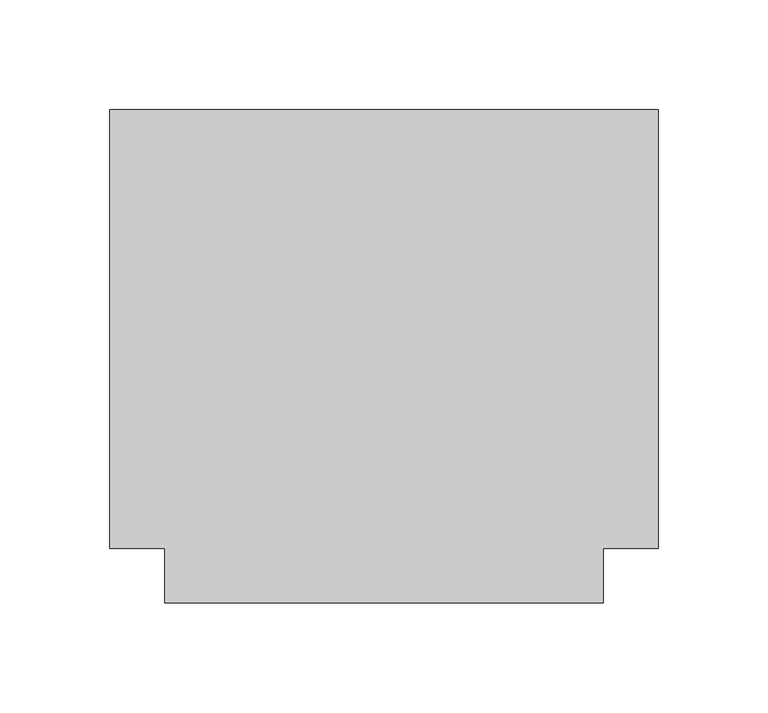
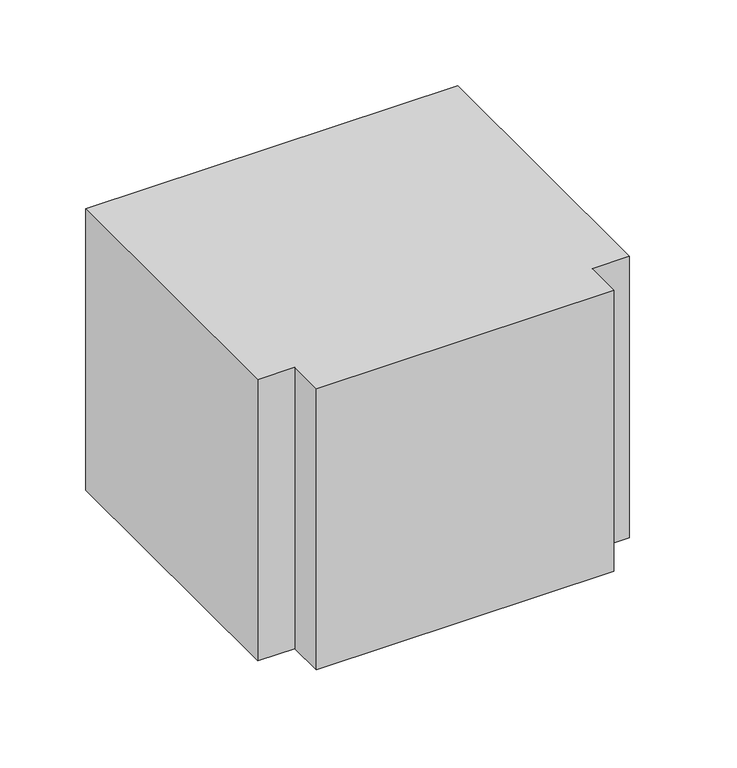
"""IFC4 building model written with IfcOpenShell, lengths in millimetres: duct fitting geometry, M_Te rectangular : Estándar."""

import ifcopenshell
import ifcopenshell.guid

model = None  # the IFC model being written
_history = None  # IfcOwnerHistory: only IFC2X3 demands one
_inside = {}  # id of a spatial element -> (the spatial element, [elements in it])
_under = {}  # id of a project, library or spatial element -> (it, [spatial elements below it])
_declared = {}  # id of a project -> (the project, [libraries it declares])
_typed = {}  # id of a type object -> (the type object, [elements of that type])
_made_of = {}  # id of a material, layer set ... -> (it, [elements and type objects made of it])


def new_model(schema):
    """Start an empty IFC model of exactly this schema.

    Asked for "IFC4X3", IfcOpenShell would pick the latest addendum, in which some entities
    have other attributes; the version numbers below select the first issue.
    IFC2X3 requires an IfcOwnerHistory on every rooted entity: one is made here for all.
    """
    global model, _history
    if schema == "IFC4X3":
        model = ifcopenshell.file(schema_version=(4, 3, 0, 0))
    else:
        model = ifcopenshell.file(schema=schema)
    _inside.clear()
    _under.clear()
    _declared.clear()
    _typed.clear()
    _made_of.clear()
    _history = None
    if model.schema == "IFC2X3":
        org = make("IfcOrganization", Name="unknown")
        user = make(
            "IfcPersonAndOrganization",
            ThePerson=make("IfcPerson", FamilyName="unknown"),
            TheOrganization=org,
        )
        app = make(
            "IfcApplication",
            ApplicationDeveloper=org,
            Version="unknown",
            ApplicationFullName="unknown",
            ApplicationIdentifier="unknown",
        )
        _history = make(
            "IfcOwnerHistory",
            OwningUser=user,
            OwningApplication=app,
            ChangeAction="ADDED",
            CreationDate=0,
        )
    return model


def make(cls, **values):
    """One entity of the class cls with the attributes given. An attribute that is None is left unset."""
    return model.create_entity(
        cls, **{name: value for name, value in values.items() if value is not None}
    )


def rooted(cls, **values):
    """An entity with a GlobalId (a new one), such as an element, a storey or a relation."""
    return make(cls, GlobalId=ifcopenshell.guid.new(), OwnerHistory=_history, **values)


def si_unit(unit_type, name, prefix=None):
    """IfcSIUnit, for example si_unit("LENGTHUNIT", "METRE", prefix="MILLI")."""
    return make("IfcSIUnit", UnitType=unit_type, Prefix=prefix, Name=name)


def assignment(units):
    """IfcUnitAssignment: the units of a project."""
    return None if units is None else make("IfcUnitAssignment", Units=units)


def point(xyz):
    """IfcCartesianPoint."""
    return None if xyz is None else make("IfcCartesianPoint", Coordinates=xyz)


def direction(xyz):
    """IfcDirection."""
    return None if xyz is None else make("IfcDirection", DirectionRatios=xyz)


def frame(location, z_axis=None, x_axis=None):
    """IfcAxis2Placement3D, a coordinate frame: its origin and axes. An axis left out is left unset."""
    return make(
        "IfcAxis2Placement3D",
        Location=point(location),
        Axis=direction(z_axis),
        RefDirection=direction(x_axis),
    )


def origin():
    """The frame at (0, 0, 0) with its axes left unset."""
    return frame((0.0, 0.0, 0.0))


def place(relative_to, where):
    """IfcLocalPlacement: puts the frame where relative to a parent placement (None: the world)."""
    return make(
        "IfcLocalPlacement", PlacementRelTo=relative_to, RelativePlacement=where
    )


def context(
    kind, dimensions, precision=None, world=None, true_north=None, identifier=None
):
    """IfcGeometricRepresentationContext, for example the 3D "Model" context."""
    return make(
        "IfcGeometricRepresentationContext",
        ContextIdentifier=identifier,
        ContextType=kind,
        CoordinateSpaceDimension=dimensions,
        Precision=precision,
        WorldCoordinateSystem=world,
        TrueNorth=true_north,
    )


def project(units=None, contexts=None):
    """IfcProject with its units and contexts."""
    return rooted(
        "IfcProject",
        Name="project",
        RepresentationContexts=contexts,
        UnitsInContext=assignment(units),
    )


def spatial(cls, under=None, at=None, **own):
    """A site, building, storey or space (cls), placed at a placement, below another one or the project."""
    s = rooted(cls, ObjectPlacement=at, **own)
    if under is not None:
        _under.setdefault(under.id(), (under, []))[1].append(s)
    return s


def polyline(points):
    """IfcPolyline through the points."""
    return make("IfcPolyline", Points=[point(p) for p in points])


def outline(outer, holes=None, kind="AREA"):
    """IfcArbitraryClosedProfileDef: a profile drawn as a closed curve; with holes, ...WithVoids."""
    if holes is None:
        return make("IfcArbitraryClosedProfileDef", ProfileType=kind, OuterCurve=outer)
    return make(
        "IfcArbitraryProfileDefWithVoids",
        ProfileType=kind,
        OuterCurve=outer,
        InnerCurves=holes,
    )


def extrude(swept, where, along, depth):
    """IfcExtrudedAreaSolid: the profile swept, set in the frame where, extruded along a direction by depth."""
    return make(
        "IfcExtrudedAreaSolid",
        SweptArea=swept,
        Position=where,
        ExtrudedDirection=direction(along),
        Depth=depth,
    )


def shape(context_of_items, identifier, shape_type, items):
    """IfcShapeRepresentation: the items that make up one representation, for example the "Body"."""
    return make(
        "IfcShapeRepresentation",
        ContextOfItems=context_of_items,
        RepresentationIdentifier=identifier,
        RepresentationType=shape_type,
        Items=items,
    )


def source(mapping_origin, context_of_items, identifier, shape_type, items):
    """IfcRepresentationMap: a shape defined once, which mapped items show again and again."""
    return make(
        "IfcRepresentationMap",
        MappingOrigin=mapping_origin,
        MappedRepresentation=shape(context_of_items, identifier, shape_type, items),
    )


def transform(
    local_origin,
    x_axis=None,
    y_axis=None,
    z_axis=None,
    scale=None,
    scale2=None,
    scale3=None,
    uniform=True,
):
    """IfcCartesianTransformationOperator3D, or its non-uniform kind. x_axis, y_axis, z_axis: its Axis1, 2, 3."""
    if uniform:
        return make(
            "IfcCartesianTransformationOperator3D",
            Axis1=direction(x_axis),
            Axis2=direction(y_axis),
            LocalOrigin=point(local_origin),
            Scale=scale,
            Axis3=direction(z_axis),
        )
    return make(
        "IfcCartesianTransformationOperator3DnonUniform",
        Axis1=direction(x_axis),
        Axis2=direction(y_axis),
        LocalOrigin=point(local_origin),
        Scale=scale,
        Axis3=direction(z_axis),
        Scale2=scale2,
        Scale3=scale3,
    )


def mapped(mapping_source, mapping_target):
    """IfcMappedItem: shows the shape of a source again, moved by a transform."""
    return make(
        "IfcMappedItem", MappingSource=mapping_source, MappingTarget=mapping_target
    )


def made_of(thing, what):
    """Note that an element or type object is made of a material, layer set ...; save() writes the relation."""
    if what is not None:
        _made_of.setdefault(what.id(), (what, []))[1].append(thing)
    return thing


def element(
    cls,
    number,
    at=None,
    inside=None,
    cuts=None,
    type_object=None,
    material=None,
    context=None,
    identifier="Body",
    shape_type=None,
    held_by="IfcProductDefinitionShape",
    body=None,
    shapes=None,
    **own,
):
    """One element of the class cls, such as IfcWall. Its Tag is "e" and its number.

    at: its placement. inside: the storey or other place that contains it. cuts: it is an
    opening in that element (IfcRelVoidsElement). A single representation is given by context,
    identifier, shape_type and body (its items); several are given by shapes. held_by: the class
    of the entity that holds the representations. save() writes the other relations.
    """
    e = rooted(cls, Tag="e%d" % number, ObjectPlacement=at, **own)
    if body is not None:
        shapes = [shape(context, identifier, shape_type, body)]
    if shapes is not None:
        e.Representation = make(held_by, Representations=shapes)
    if inside is not None:
        _inside.setdefault(inside.id(), (inside, []))[1].append(e)
    if cuts is not None:
        rooted(
            "IfcRelVoidsElement", RelatingBuildingElement=cuts, RelatedOpeningElement=e
        )
    if type_object is not None:
        _typed.setdefault(type_object.id(), (type_object, []))[1].append(e)
    return made_of(e, material)


def aggregate(whole, parts):
    """IfcRelAggregates: a whole, such as a stair, and the parts it consists of."""
    return rooted("IfcRelAggregates", RelatingObject=whole, RelatedObjects=parts)


def save(model, path):
    """Write the relations noted so far, then the file.

    IfcRelAggregates (storeys below a building ...), IfcRelContainedInSpatialStructure (elements
    in a storey), IfcRelDefinesByType, IfcRelAssociatesMaterial and IfcRelDeclares: one each for
    every whole, place, type object, material and project.
    """
    for whole, parts in _under.values():
        aggregate(whole, parts)
    for where, things in _inside.values():
        rooted(
            "IfcRelContainedInSpatialStructure",
            RelatedElements=things,
            RelatingStructure=where,
        )
    for kind, things in _typed.values():
        rooted("IfcRelDefinesByType", RelatedObjects=things, RelatingType=kind)
    for what, things in _made_of.values():
        rooted("IfcRelAssociatesMaterial", RelatedObjects=things, RelatingMaterial=what)
    for by, libraries in _declared.values():
        rooted("IfcRelDeclares", RelatingContext=by, RelatedDefinitions=libraries)
    model.write(path)


def duct_fitting_3a52b0fc(model_context):
    return source(origin(), model_context, "Body", "SweptSolid", [
        extrude(outline(polyline([(-125.0, -100.0), (-125.0, 100.0), (125.0, 100.0), (125.0, -100.0), (100.0, -100.0), (100.0, -125.0), (-100.0, -125.0), (-100.0, -100.0), (-125.0, -100.0)])), frame((0.0, 0.0, -100.0), z_axis=(0.0, 0.0, 1.0), x_axis=(1.0, 0.0, 0.0)), (0.0, 0.0, 1.0), 200.0),
    ])


if __name__ == "__main__":
    model = new_model("IFC4")
    model_context = context("Model", 3, world=origin())
    ifc_project = project(units=[si_unit("LENGTHUNIT", "METRE", prefix="MILLI")], contexts=[model_context])
    site = spatial("IfcSite", under=ifc_project)
    building = spatial("IfcBuilding", under=site)
    placement = place(None, origin())
    duct_fitting_shape = duct_fitting_3a52b0fc(model_context)
    element("IfcDuctFitting", 1, ObjectType="M_Te rectangular : Estándar", at=placement, inside=building, context=model_context, shape_type="MappedRepresentation", body=[
        mapped(duct_fitting_shape, transform((0.0, 0.0, 0.0), x_axis=(1.0, 0.0, 0.0), y_axis=(0.0, 1.0, 0.0), z_axis=(0.0, 0.0, 1.0))),
    ])
    save(model, "model.ifc")
